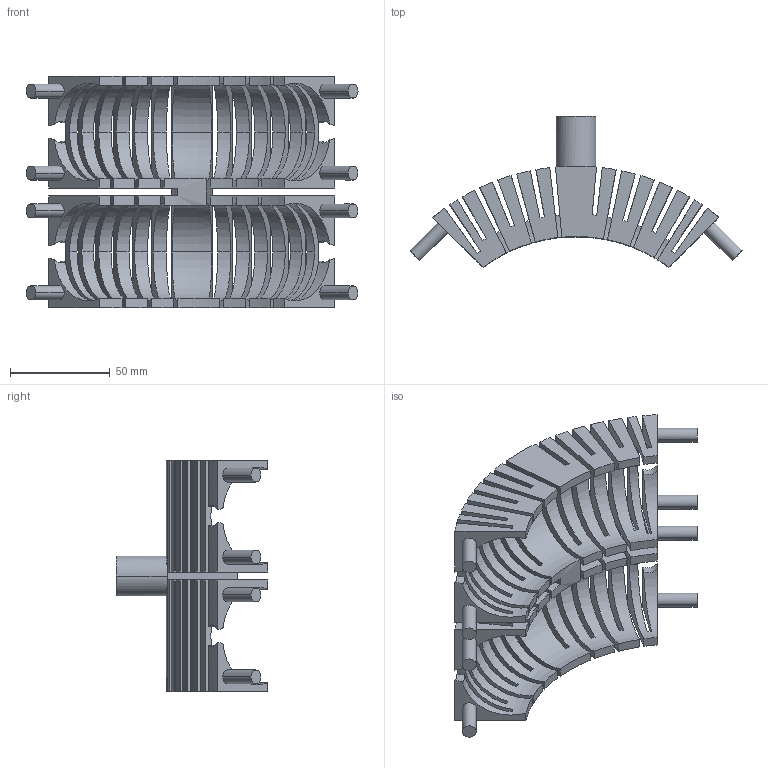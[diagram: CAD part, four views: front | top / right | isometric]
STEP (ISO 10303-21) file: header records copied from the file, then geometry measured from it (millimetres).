
FILE_DESCRIPTION(('STEP AP214'),'1');
FILE_NAME('C:/Users/mashimo/Documents/円弧動エンジン/ボア4.4ｃｍ/TurboCAD/3D/tmp0.STEP','2023-12-27T10:11:03',(' '),(' '),'Spatial InterOp 3D',' ',' ');
FILE_SCHEMA(('automotive_design'));
Length unit declared in the file: millimetre
Products named in the file (1): 1
Bounding box: 166.08 x 75.62 x 116 mm (x, y, z)
Volume: 155519.1 mm3; surface area: 88536.6 mm2
Topology: 1 solids, 1 shells, 249 faces, 714 edges, 476 vertices
Faces by surface type: cylinder 118, plane 103, torus 28
Entity records: 11232 total; most frequent: CARTESIAN_POINT 2374, DIRECTION 1554, ORIENTED_EDGE 1428, EDGE_CURVE 714, AXIS2_PLACEMENT_3D 616, VERTEX_POINT 476, CIRCLE 342, LINE 322
